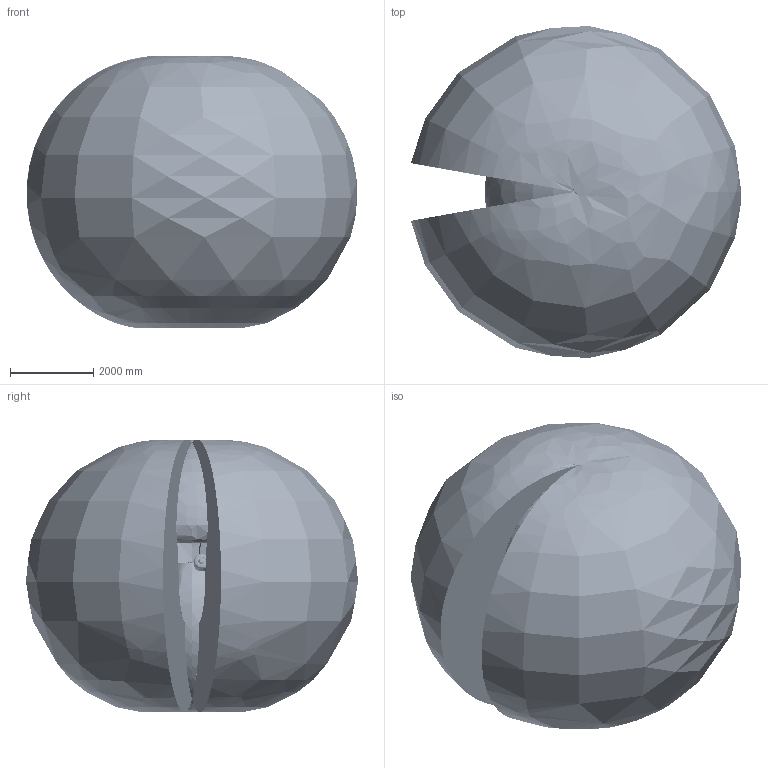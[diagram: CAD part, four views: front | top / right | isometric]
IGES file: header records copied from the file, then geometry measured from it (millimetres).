
Start section: SolidWorks IGES file using analytic representation for surfaces
Global section: file name: N:\DM\Robotics\SEROP_PROJ\Product Development\DevelopmentProjects\Manipulator_Modularity\04. Product Design\06. CAD\Amanda\6730S Simulation models\\IRB6730S-LID-MH_130kg-400_OC_01_IGES_J\IRB6730S-LID-MH_130kg-400_OC_00_ASM_CAD.igs; native system: SolidWorks 2024; preprocessor: SolidWorks 2024; author: SEJOHLUN; date: 251219.141720; units: millimetre
Bounding box: 7941.88 x 7970.85 x 6550.6 mm (x, y, z)
Surface area: 280676126.2 mm2 (no closed solid volume)
Topology: 0 solids, 0 shells, 10323 faces, 169513 edges, 169251 vertices
Faces by surface type: bspline 5943, revolution 4380
